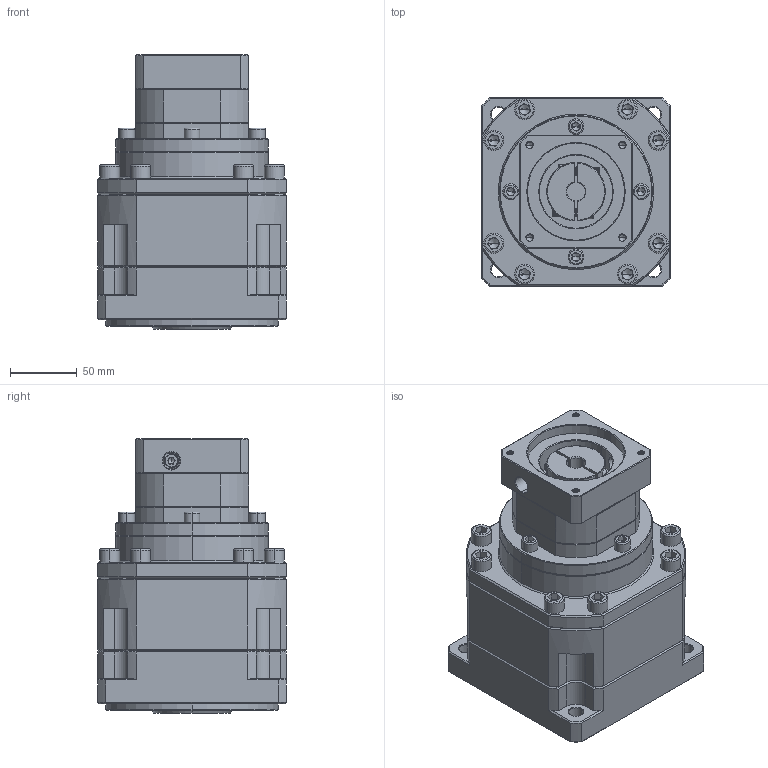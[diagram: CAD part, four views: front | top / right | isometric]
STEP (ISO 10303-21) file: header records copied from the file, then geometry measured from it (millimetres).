
FILE_DESCRIPTION (( 'STEP AP214' ), '1' );
FILE_NAME ('ZB142A-K35-L3-14-73-69.6X69.6-M6.step', '2023-03-18T08:17:04', ( '' ), ( '' ), 'SwSTEP 2.0', 'SolidWorks 2016', '' );
FILE_SCHEMA (( 'AUTOMOTIVE_DESIGN' ));
Length unit declared in the file: millimetre
Products named in the file (1): ZB142A-K35-L3-14-73-69.6X69.6-M6
Bounding box: 142 x 142 x 206.2 mm (x, y, z)
Volume: 2613532.2 mm3; surface area: 194824.3 mm2
Topology: 5 solids, 6 shells, 2204 faces, 5638 edges, 3549 vertices
Faces by surface type: plane 1049, cylinder 435, cone 369, bspline 292, torus 59
Entity records: 111147 total; most frequent: CARTESIAN_POINT 35968, ORIENTED_EDGE 11172, DIRECTION 9531, EDGE_CURVE 5586, VERTEX_POINT 3549, LINE 3535, VECTOR 3535, AXIS2_PLACEMENT_3D 2998
